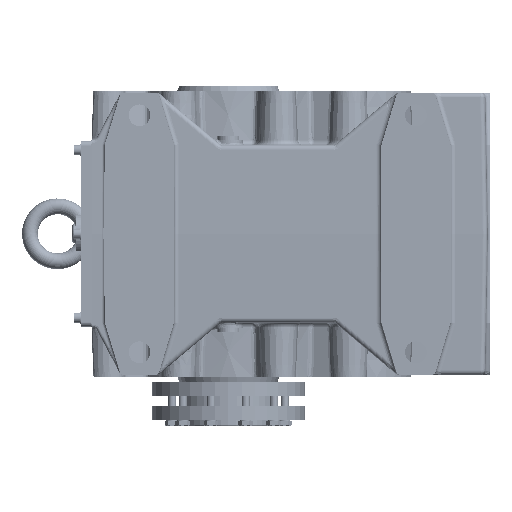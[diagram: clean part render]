
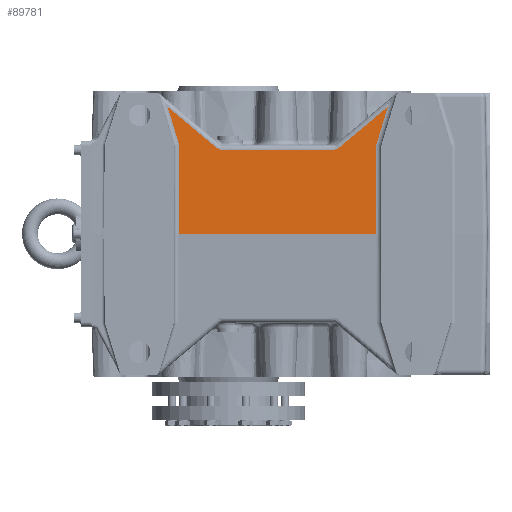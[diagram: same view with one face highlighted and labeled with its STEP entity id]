
A CAD part, left-side view. The second image highlights one B-rep face of the part: STEP entity #89781.
In plain terms, the highlighted planar face has unit normal (-1, 0, 0.018).
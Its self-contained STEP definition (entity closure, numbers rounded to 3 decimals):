
#49648=CARTESIAN_POINT('',(-156.571,-150.0,0.0));
#49649=VERTEX_POINT('',#49648);
#49699=CARTESIAN_POINT('',(-154.989,-150.0,90.651));
#49700=VERTEX_POINT('',#49699);
#49708=CARTESIAN_POINT('',(-154.989,-150.0,90.651));
#49709=DIRECTION('',(-0.017,0.0,-1.));
#49710=VECTOR('',#49709,90.665);
#49711=LINE('',#49708,#49710);
#49712=EDGE_CURVE('',#49700,#49649,#49711,.T.);
#50088=CARTESIAN_POINT('',(-156.571,50.,0.0));
#50089=VERTEX_POINT('',#50088);
#50097=CARTESIAN_POINT('',(-154.989,50.,90.651));
#50098=VERTEX_POINT('',#50097);
#50099=CARTESIAN_POINT('',(-156.571,50.,0.));
#50100=DIRECTION('',(0.017,0.0,1.));
#50101=VECTOR('',#50100,90.665);
#50102=LINE('',#50099,#50101);
#50103=EDGE_CURVE('',#50089,#50098,#50102,.T.);
#80468=CARTESIAN_POINT('',(-155.086,6.017,85.087));
#80469=VERTEX_POINT('',#80468);
#80477=CARTESIAN_POINT('',(-155.086,-106.017,85.087));
#80478=VERTEX_POINT('',#80477);
#80479=CARTESIAN_POINT('',(-155.086,6.017,85.087));
#80480=DIRECTION('',(0.0,-1.0,0.0));
#80481=VECTOR('',#80480,112.034);
#80482=LINE('',#80479,#80481);
#80483=EDGE_CURVE('',#80469,#80478,#80482,.T.);
#80518=CARTESIAN_POINT('',(-155.045,12.445,87.427));
#80519=VERTEX_POINT('',#80518);
#80527=CARTESIAN_POINT('',(-154.911,6.017,95.087));
#80528=DIRECTION('',(-1.,0.,0.017));
#80529=DIRECTION('',(-0.017,0.,-1.));
#80530=AXIS2_PLACEMENT_3D('',#80527,#80528,#80529);
#80531=ELLIPSE('',#80530,10.002,10.);
#80532=EDGE_CURVE('',#80519,#80469,#80531,.T.);
#80552=CARTESIAN_POINT('',(-154.327,61.437,128.536));
#80553=VERTEX_POINT('',#80552);
#80561=CARTESIAN_POINT('',(-154.327,61.437,128.536));
#80562=DIRECTION('',(-0.011,-0.766,-0.643));
#80563=VECTOR('',#80562,63.958);
#80564=LINE('',#80561,#80563);
#80565=EDGE_CURVE('',#80553,#80519,#80564,.T.);
#89472=CARTESIAN_POINT('',(-156.571,-150.0,0.0));
#89473=DIRECTION('',(0.0,1.0,0.0));
#89474=VECTOR('',#89473,200.);
#89475=LINE('',#89472,#89474);
#89476=EDGE_CURVE('',#50089,#49649,#89475,.F.);
#89521=CARTESIAN_POINT('',(-155.045,-112.445,87.427));
#89522=VERTEX_POINT('',#89521);
#89540=CARTESIAN_POINT('',(-154.911,-106.017,95.087));
#89541=DIRECTION('',(-1.,0.,0.017));
#89542=DIRECTION('',(-0.017,0.,-1.));
#89543=AXIS2_PLACEMENT_3D('',#89540,#89541,#89542);
#89544=ELLIPSE('',#89543,10.002,10.0);
#89545=EDGE_CURVE('',#80478,#89522,#89544,.T.);
#89555=CARTESIAN_POINT('',(-154.327,-161.437,128.536));
#89556=VERTEX_POINT('',#89555);
#89573=CARTESIAN_POINT('',(-155.045,-112.445,87.427));
#89574=DIRECTION('',(0.011,-0.766,0.643));
#89575=VECTOR('',#89574,63.958);
#89576=LINE('',#89573,#89575);
#89577=EDGE_CURVE('',#89522,#89556,#89576,.T.);
#89748=CARTESIAN_POINT('',(-154.327,-161.437,128.536));
#89749=DIRECTION('',(-0.017,0.289,-0.957));
#89750=VECTOR('',#89749,39.579);
#89751=LINE('',#89748,#89750);
#89752=EDGE_CURVE('',#89556,#49700,#89751,.T.);
#89759=CARTESIAN_POINT('',(-156.571,-260.0,0.014));
#89760=DIRECTION('',(-1.,0.,0.017));
#89761=DIRECTION('',(0.017,0.,1.));
#89762=AXIS2_PLACEMENT_3D('',#89759,#89760,#89761);
#89763=PLANE('',#89762);
#89764=ORIENTED_EDGE('',*,*,#89577,.F.);
#89765=ORIENTED_EDGE('',*,*,#89545,.F.);
#89766=ORIENTED_EDGE('',*,*,#80483,.F.);
#89767=ORIENTED_EDGE('',*,*,#80532,.F.);
#89768=ORIENTED_EDGE('',*,*,#80565,.F.);
#89769=CARTESIAN_POINT('',(-154.989,50.,90.651));
#89770=DIRECTION('',(0.017,0.289,0.957));
#89771=VECTOR('',#89770,39.579);
#89772=LINE('',#89769,#89771);
#89773=EDGE_CURVE('',#50098,#80553,#89772,.T.);
#89774=ORIENTED_EDGE('',*,*,#89773,.F.);
#89775=ORIENTED_EDGE('',*,*,#50103,.F.);
#89776=ORIENTED_EDGE('',*,*,#89476,.T.);
#89777=ORIENTED_EDGE('',*,*,#49712,.F.);
#89778=ORIENTED_EDGE('',*,*,#89752,.F.);
#89779=EDGE_LOOP('',(#89764,#89765,#89766,#89767,#89768,#89774,#89775,#89776,#89777,#89778));
#89780=FACE_OUTER_BOUND('',#89779,.T.);
#89781=ADVANCED_FACE('',(#89780),#89763,.T.);
